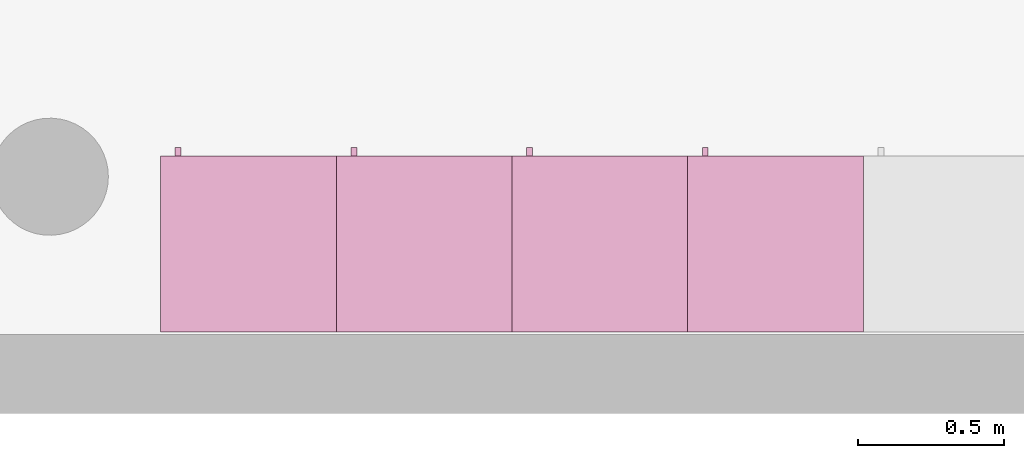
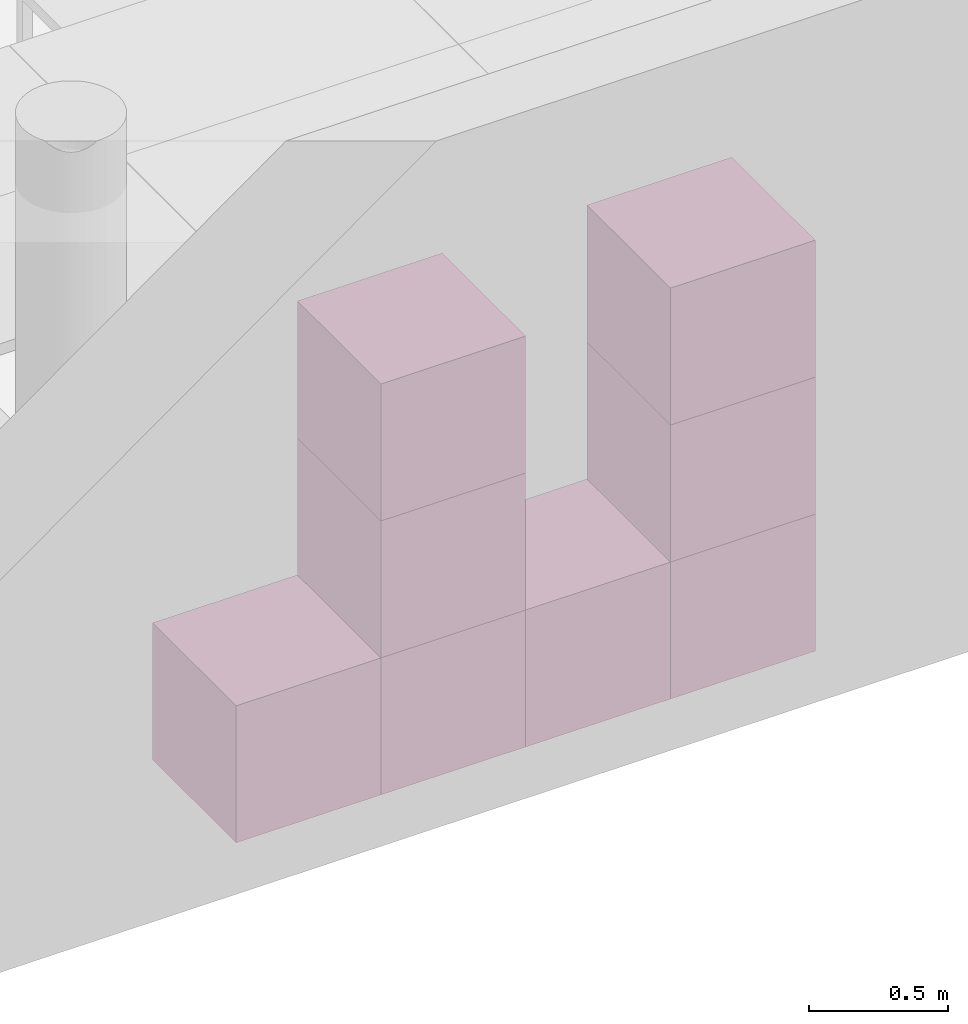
"""IFC4 building model written with IfcOpenShell, lengths in metres."""

from ifc_helpers import new_model, entity, si_unit, converted_unit, derived_unit, frame, origin, place, context, subcontext, project, spatial, faceted_brep, element, save


model = new_model("IFC4")

# Units and contexts
model_context = context("Model", 3, precision=1e-05, world=origin())
body_context = subcontext(model_context, "Body", "Model", "MODEL_VIEW")
ifc_project = project(units=[si_unit("LENGTHUNIT", "METRE"), si_unit("AREAUNIT", "SQUARE_METRE"), si_unit("VOLUMEUNIT", "CUBIC_METRE"), si_unit("MASSUNIT", "GRAM", prefix="KILO"), converted_unit("PLANEANGLEUNIT", "DEGREE", entity("IfcPlaneAngleMeasure", 0.0174532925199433), si_unit("PLANEANGLEUNIT", "RADIAN"), dimensions=[0, 0, 0, 0, 0, 0, 0]), derived_unit("THERMALTRANSMITTANCEUNIT", [(si_unit("POWERUNIT", "WATT"), 1), (si_unit("THERMODYNAMICTEMPERATUREUNIT", "KELVIN"), -1), (si_unit("LENGTHUNIT", "METRE"), -2)]), derived_unit("VOLUMETRICFLOWRATEUNIT", [(si_unit("LENGTHUNIT", "METRE"), 3), (converted_unit("TIMEUNIT", "hour", entity("IfcTimeMeasure", 3600.0), si_unit("TIMEUNIT", "SECOND"), dimensions=[0, 0, 1, 0, 0, 0, 0]), -1), (si_unit("LENGTHUNIT", "METRE"), -1)])], contexts=[model_context])

# Building, storeys
building_placement = place(None, origin())
building = spatial("IfcBuilding", under=ifc_project, at=building_placement, Name="HABITATGE PLURIFAMILIAR", CompositionType="ELEMENT")
storey_1_placement = place(building_placement, frame((0.0, 0.0, 15.28)))
storey_1 = spatial("IfcBuildingStorey", under=building, at=storey_1_placement, Name="PLANTA QUARTA", CompositionType="ELEMENT", Elevation=15.28)
storey_2_placement = place(storey_1_placement, frame((0.0, 0.0, 12.27)))
storey_2 = spatial("IfcBuildingStorey", under=storey_1, at=storey_2_placement, Name="NOU", CompositionType="PARTIAL")

# Furniture
furniture_1_placement = place(storey_2_placement, frame((418.31527037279, 13.1194598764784, -11.77)))
element("IfcFurniture", 1, at=furniture_1_placement, inside=storey_2, Name="Armai 60x60x60_P4", context=body_context, shape_type="Brep", body=[
    faceted_brep([(0.0, 0.6, 0.02), (0.0, 0.6, 0.0), (0.6, 0.6, 0.0), (0.6, 0.6, 0.02), (0.6, 0.0, 0.0), (0.6, 0.0, 0.02), (0.0, 0.0, 0.0), (0.0, 0.0, 0.02)], [[[0, 1, 2, 3]], [[3, 2, 4, 5]], [[5, 4, 6, 7]], [[7, 6, 1, 0]], [[0, 3, 5, 7]], [[1, 6, 4, 2]]], orient=[[False], [False], [False], [False], [False], [False]]),
    faceted_brep([(0.580000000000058, 0.0, 0.58), (0.580000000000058, 0.0200000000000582, 0.58), (0.580000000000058, 0.0200000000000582, 0.02), (0.580000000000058, 0.0, 0.02), (0.0200000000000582, 0.0200000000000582, 0.02), (0.0200000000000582, 0.0, 0.02), (0.0200000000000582, 0.0200000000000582, 0.58), (0.0200000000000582, 0.0, 0.58)], [[[0, 1, 2, 3]], [[3, 2, 4, 5]], [[5, 4, 6, 7]], [[7, 6, 1, 0]], [[0, 3, 5, 7]], [[1, 6, 4, 2]]], orient=[[False], [False], [False], [False], [False], [False]]),
    faceted_brep([(0.0200000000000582, 0.6, 0.58), (0.0, 0.6, 0.58), (0.0, 0.6, 0.02), (0.0200000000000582, 0.6, 0.02), (0.0, 0.0, 0.02), (0.0200000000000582, 0.0, 0.02), (0.0, 0.0, 0.58), (0.0200000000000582, 0.0, 0.58)], [[[0, 1, 2, 3]], [[3, 2, 4, 5]], [[5, 4, 6, 7]], [[7, 6, 1, 0]], [[0, 3, 5, 7]], [[1, 6, 4, 2]]], orient=[[False], [False], [False], [False], [False], [False]]),
    faceted_brep([(0.0, 0.58, 0.58), (0.0, 0.6, 0.58), (0.0, 0.6, 0.02), (0.0, 0.58, 0.02), (0.02, 0.6, 0.02), (0.02, 0.58, 0.02), (0.02, 0.6, 0.58), (0.02, 0.58, 0.58)], [[[0, 1, 2, 3]], [[3, 2, 4, 5]], [[5, 4, 6, 7]], [[7, 6, 1, 0]], [[0, 3, 5, 7]], [[1, 6, 4, 2]]], orient=[[False], [False], [False], [False], [False], [False]]),
    faceted_brep([(0.6, 0.6, 0.58), (0.58, 0.6, 0.58), (0.58, 0.6, 0.02), (0.6, 0.6, 0.02), (0.58, 0.0, 0.02), (0.6, 0.0, 0.02), (0.58, 0.0, 0.58), (0.6, 0.0, 0.58)], [[[0, 1, 2, 3]], [[3, 2, 4, 5]], [[5, 4, 6, 7]], [[7, 6, 1, 0]], [[0, 3, 5, 7]], [[1, 6, 4, 2]]], orient=[[False], [False], [False], [False], [False], [False]]),
    faceted_brep([(0.0, 0.600000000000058, 0.6), (0.0, 0.600000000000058, 0.58), (0.600000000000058, 0.600000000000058, 0.58), (0.600000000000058, 0.600000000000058, 0.6), (0.600000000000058, 0.0, 0.58), (0.600000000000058, 0.0, 0.6), (0.0, 0.0, 0.58), (0.0, 0.0, 0.6)], [[[0, 1, 2, 3]], [[3, 2, 4, 5]], [[5, 4, 6, 7]], [[7, 6, 1, 0]], [[0, 3, 5, 7]], [[1, 6, 4, 2]]], orient=[[False], [False], [False], [False], [False], [False]]),
    faceted_brep([(0.580000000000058, 0.580000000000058, 0.58), (0.580000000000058, 0.600000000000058, 0.58), (0.580000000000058, 0.600000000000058, 0.02), (0.580000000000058, 0.580000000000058, 0.02), (0.02, 0.600000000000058, 0.02), (0.02, 0.580000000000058, 0.02), (0.02, 0.600000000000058, 0.58), (0.02, 0.580000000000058, 0.58)], [[[0, 1, 2, 3]], [[3, 2, 4, 5]], [[5, 4, 6, 7]], [[7, 6, 1, 0]], [[0, 3, 5, 7]], [[1, 6, 4, 2]]], orient=[[False], [False], [False], [False], [False], [False]]),
    faceted_brep([(0.0700000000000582, 0.600000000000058, 0.358064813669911), (0.0700000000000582, 0.630000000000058, 0.358064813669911), (0.0700000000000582, 0.630000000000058, 0.258064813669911), (0.0700000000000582, 0.600000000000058, 0.258064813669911), (0.0500000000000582, 0.630000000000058, 0.258064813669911), (0.0500000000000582, 0.600000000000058, 0.258064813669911), (0.0500000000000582, 0.630000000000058, 0.358064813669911), (0.0500000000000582, 0.600000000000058, 0.358064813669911)], [[[0, 1, 2, 3]], [[3, 2, 4, 5]], [[5, 4, 6, 7]], [[7, 6, 1, 0]], [[0, 3, 5, 7]], [[1, 6, 4, 2]]], orient=[[False], [False], [False], [False], [False], [False]]),
])
furniture_2_placement = place(storey_2_placement, frame((418.31527037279, 13.1194598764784, -11.17)))
element("IfcFurniture", 2, at=furniture_2_placement, inside=storey_2, Name="Armai 60x60x60_P4", context=body_context, shape_type="Brep", body=[
    faceted_brep([(0.0, 0.6, 0.02), (0.0, 0.6, 0.0), (0.6, 0.6, 0.0), (0.6, 0.6, 0.02), (0.6, 0.0, 0.0), (0.6, 0.0, 0.02), (0.0, 0.0, 0.0), (0.0, 0.0, 0.02)], [[[0, 1, 2, 3]], [[3, 2, 4, 5]], [[5, 4, 6, 7]], [[7, 6, 1, 0]], [[0, 3, 5, 7]], [[1, 6, 4, 2]]], orient=[[False], [False], [False], [False], [False], [False]]),
    faceted_brep([(0.580000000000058, 0.0, 0.58), (0.580000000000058, 0.0200000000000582, 0.58), (0.580000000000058, 0.0200000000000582, 0.02), (0.580000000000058, 0.0, 0.02), (0.0200000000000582, 0.0200000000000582, 0.02), (0.0200000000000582, 0.0, 0.02), (0.0200000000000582, 0.0200000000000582, 0.58), (0.0200000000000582, 0.0, 0.58)], [[[0, 1, 2, 3]], [[3, 2, 4, 5]], [[5, 4, 6, 7]], [[7, 6, 1, 0]], [[0, 3, 5, 7]], [[1, 6, 4, 2]]], orient=[[False], [False], [False], [False], [False], [False]]),
    faceted_brep([(0.0200000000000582, 0.6, 0.58), (0.0, 0.6, 0.58), (0.0, 0.6, 0.02), (0.0200000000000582, 0.6, 0.02), (0.0, 0.0, 0.02), (0.0200000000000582, 0.0, 0.02), (0.0, 0.0, 0.58), (0.0200000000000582, 0.0, 0.58)], [[[0, 1, 2, 3]], [[3, 2, 4, 5]], [[5, 4, 6, 7]], [[7, 6, 1, 0]], [[0, 3, 5, 7]], [[1, 6, 4, 2]]], orient=[[False], [False], [False], [False], [False], [False]]),
    faceted_brep([(0.0, 0.58, 0.58), (0.0, 0.6, 0.58), (0.0, 0.6, 0.02), (0.0, 0.58, 0.02), (0.02, 0.6, 0.02), (0.02, 0.58, 0.02), (0.02, 0.6, 0.58), (0.02, 0.58, 0.58)], [[[0, 1, 2, 3]], [[3, 2, 4, 5]], [[5, 4, 6, 7]], [[7, 6, 1, 0]], [[0, 3, 5, 7]], [[1, 6, 4, 2]]], orient=[[False], [False], [False], [False], [False], [False]]),
    faceted_brep([(0.6, 0.6, 0.58), (0.58, 0.6, 0.58), (0.58, 0.6, 0.02), (0.6, 0.6, 0.02), (0.58, 0.0, 0.02), (0.6, 0.0, 0.02), (0.58, 0.0, 0.58), (0.6, 0.0, 0.58)], [[[0, 1, 2, 3]], [[3, 2, 4, 5]], [[5, 4, 6, 7]], [[7, 6, 1, 0]], [[0, 3, 5, 7]], [[1, 6, 4, 2]]], orient=[[False], [False], [False], [False], [False], [False]]),
    faceted_brep([(0.0, 0.600000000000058, 0.6), (0.0, 0.600000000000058, 0.58), (0.600000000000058, 0.600000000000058, 0.58), (0.600000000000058, 0.600000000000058, 0.6), (0.600000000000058, 0.0, 0.58), (0.600000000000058, 0.0, 0.6), (0.0, 0.0, 0.58), (0.0, 0.0, 0.6)], [[[0, 1, 2, 3]], [[3, 2, 4, 5]], [[5, 4, 6, 7]], [[7, 6, 1, 0]], [[0, 3, 5, 7]], [[1, 6, 4, 2]]], orient=[[False], [False], [False], [False], [False], [False]]),
    faceted_brep([(0.580000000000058, 0.580000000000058, 0.58), (0.580000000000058, 0.600000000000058, 0.58), (0.580000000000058, 0.600000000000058, 0.02), (0.580000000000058, 0.580000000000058, 0.02), (0.02, 0.600000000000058, 0.02), (0.02, 0.580000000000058, 0.02), (0.02, 0.600000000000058, 0.58), (0.02, 0.580000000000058, 0.58)], [[[0, 1, 2, 3]], [[3, 2, 4, 5]], [[5, 4, 6, 7]], [[7, 6, 1, 0]], [[0, 3, 5, 7]], [[1, 6, 4, 2]]], orient=[[False], [False], [False], [False], [False], [False]]),
    faceted_brep([(0.0700000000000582, 0.600000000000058, 0.358064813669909), (0.0700000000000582, 0.630000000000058, 0.358064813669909), (0.0700000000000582, 0.630000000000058, 0.258064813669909), (0.0700000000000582, 0.600000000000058, 0.258064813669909), (0.0500000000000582, 0.630000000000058, 0.258064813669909), (0.0500000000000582, 0.600000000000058, 0.258064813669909), (0.0500000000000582, 0.630000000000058, 0.358064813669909), (0.0500000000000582, 0.600000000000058, 0.358064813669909)], [[[0, 1, 2, 3]], [[3, 2, 4, 5]], [[5, 4, 6, 7]], [[7, 6, 1, 0]], [[0, 3, 5, 7]], [[1, 6, 4, 2]]], orient=[[False], [False], [False], [False], [False], [False]]),
])
furniture_3_placement = place(storey_2_placement, frame((418.31527037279, 13.1194598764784, -12.37)))
element("IfcFurniture", 3, at=furniture_3_placement, inside=storey_2, Name="Armai 60x60x60_P4", context=body_context, shape_type="Brep", body=[
    faceted_brep([(0.0, 0.6, 0.02), (0.0, 0.6, 0.0), (0.6, 0.6, 0.0), (0.6, 0.6, 0.02), (0.6, 0.0, 0.0), (0.6, 0.0, 0.02), (0.0, 0.0, 0.0), (0.0, 0.0, 0.02)], [[[0, 1, 2, 3]], [[3, 2, 4, 5]], [[5, 4, 6, 7]], [[7, 6, 1, 0]], [[0, 3, 5, 7]], [[1, 6, 4, 2]]], orient=[[False], [False], [False], [False], [False], [False]]),
    faceted_brep([(0.580000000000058, 0.0, 0.58), (0.580000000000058, 0.0200000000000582, 0.58), (0.580000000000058, 0.0200000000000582, 0.02), (0.580000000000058, 0.0, 0.02), (0.0200000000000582, 0.0200000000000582, 0.02), (0.0200000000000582, 0.0, 0.02), (0.0200000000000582, 0.0200000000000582, 0.58), (0.0200000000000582, 0.0, 0.58)], [[[0, 1, 2, 3]], [[3, 2, 4, 5]], [[5, 4, 6, 7]], [[7, 6, 1, 0]], [[0, 3, 5, 7]], [[1, 6, 4, 2]]], orient=[[False], [False], [False], [False], [False], [False]]),
    faceted_brep([(0.0200000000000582, 0.6, 0.58), (0.0, 0.6, 0.58), (0.0, 0.6, 0.02), (0.0200000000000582, 0.6, 0.02), (0.0, 0.0, 0.02), (0.0200000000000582, 0.0, 0.02), (0.0, 0.0, 0.58), (0.0200000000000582, 0.0, 0.58)], [[[0, 1, 2, 3]], [[3, 2, 4, 5]], [[5, 4, 6, 7]], [[7, 6, 1, 0]], [[0, 3, 5, 7]], [[1, 6, 4, 2]]], orient=[[False], [False], [False], [False], [False], [False]]),
    faceted_brep([(0.0, 0.58, 0.58), (0.0, 0.6, 0.58), (0.0, 0.6, 0.02), (0.0, 0.58, 0.02), (0.02, 0.6, 0.02), (0.02, 0.58, 0.02), (0.02, 0.6, 0.58), (0.02, 0.58, 0.58)], [[[0, 1, 2, 3]], [[3, 2, 4, 5]], [[5, 4, 6, 7]], [[7, 6, 1, 0]], [[0, 3, 5, 7]], [[1, 6, 4, 2]]], orient=[[False], [False], [False], [False], [False], [False]]),
    faceted_brep([(0.6, 0.6, 0.58), (0.58, 0.6, 0.58), (0.58, 0.6, 0.02), (0.6, 0.6, 0.02), (0.58, 0.0, 0.02), (0.6, 0.0, 0.02), (0.58, 0.0, 0.58), (0.6, 0.0, 0.58)], [[[0, 1, 2, 3]], [[3, 2, 4, 5]], [[5, 4, 6, 7]], [[7, 6, 1, 0]], [[0, 3, 5, 7]], [[1, 6, 4, 2]]], orient=[[False], [False], [False], [False], [False], [False]]),
    faceted_brep([(0.0, 0.600000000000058, 0.6), (0.0, 0.600000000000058, 0.58), (0.600000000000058, 0.600000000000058, 0.58), (0.600000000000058, 0.600000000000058, 0.6), (0.600000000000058, 0.0, 0.58), (0.600000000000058, 0.0, 0.6), (0.0, 0.0, 0.58), (0.0, 0.0, 0.6)], [[[0, 1, 2, 3]], [[3, 2, 4, 5]], [[5, 4, 6, 7]], [[7, 6, 1, 0]], [[0, 3, 5, 7]], [[1, 6, 4, 2]]], orient=[[False], [False], [False], [False], [False], [False]]),
    faceted_brep([(0.580000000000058, 0.580000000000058, 0.58), (0.580000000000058, 0.600000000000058, 0.58), (0.580000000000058, 0.600000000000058, 0.02), (0.580000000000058, 0.580000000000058, 0.02), (0.02, 0.600000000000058, 0.02), (0.02, 0.580000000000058, 0.02), (0.02, 0.600000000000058, 0.58), (0.02, 0.580000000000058, 0.58)], [[[0, 1, 2, 3]], [[3, 2, 4, 5]], [[5, 4, 6, 7]], [[7, 6, 1, 0]], [[0, 3, 5, 7]], [[1, 6, 4, 2]]], orient=[[False], [False], [False], [False], [False], [False]]),
    faceted_brep([(0.0700000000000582, 0.600000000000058, 0.358064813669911), (0.0700000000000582, 0.630000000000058, 0.358064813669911), (0.0700000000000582, 0.630000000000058, 0.258064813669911), (0.0700000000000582, 0.600000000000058, 0.258064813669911), (0.0500000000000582, 0.630000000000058, 0.258064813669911), (0.0500000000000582, 0.600000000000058, 0.258064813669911), (0.0500000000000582, 0.630000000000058, 0.358064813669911), (0.0500000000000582, 0.600000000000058, 0.358064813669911)], [[[0, 1, 2, 3]], [[3, 2, 4, 5]], [[5, 4, 6, 7]], [[7, 6, 1, 0]], [[0, 3, 5, 7]], [[1, 6, 4, 2]]], orient=[[False], [False], [False], [False], [False], [False]]),
])
furniture_4_placement = place(storey_2_placement, frame((417.11527037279, 13.1194598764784, -12.37)))
element("IfcFurniture", 4, at=furniture_4_placement, inside=storey_2, Name="Armai 60x60x60_P4", context=body_context, shape_type="Brep", body=[
    faceted_brep([(0.0, 0.6, 0.02), (0.0, 0.6, 0.0), (0.6, 0.6, 0.0), (0.6, 0.6, 0.02), (0.6, 0.0, 0.0), (0.6, 0.0, 0.02), (0.0, 0.0, 0.0), (0.0, 0.0, 0.02)], [[[0, 1, 2, 3]], [[3, 2, 4, 5]], [[5, 4, 6, 7]], [[7, 6, 1, 0]], [[0, 3, 5, 7]], [[1, 6, 4, 2]]], orient=[[False], [False], [False], [False], [False], [False]]),
    faceted_brep([(0.580000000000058, 0.0, 0.58), (0.580000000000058, 0.0200000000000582, 0.58), (0.580000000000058, 0.0200000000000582, 0.02), (0.580000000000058, 0.0, 0.02), (0.0200000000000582, 0.0200000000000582, 0.02), (0.0200000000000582, 0.0, 0.02), (0.0200000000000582, 0.0200000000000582, 0.58), (0.0200000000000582, 0.0, 0.58)], [[[0, 1, 2, 3]], [[3, 2, 4, 5]], [[5, 4, 6, 7]], [[7, 6, 1, 0]], [[0, 3, 5, 7]], [[1, 6, 4, 2]]], orient=[[False], [False], [False], [False], [False], [False]]),
    faceted_brep([(0.0200000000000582, 0.6, 0.58), (0.0, 0.6, 0.58), (0.0, 0.6, 0.02), (0.0200000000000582, 0.6, 0.02), (0.0, 0.0, 0.02), (0.0200000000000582, 0.0, 0.02), (0.0, 0.0, 0.58), (0.0200000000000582, 0.0, 0.58)], [[[0, 1, 2, 3]], [[3, 2, 4, 5]], [[5, 4, 6, 7]], [[7, 6, 1, 0]], [[0, 3, 5, 7]], [[1, 6, 4, 2]]], orient=[[False], [False], [False], [False], [False], [False]]),
    faceted_brep([(0.0, 0.58, 0.58), (0.0, 0.6, 0.58), (0.0, 0.6, 0.02), (0.0, 0.58, 0.02), (0.02, 0.6, 0.02), (0.02, 0.58, 0.02), (0.02, 0.6, 0.58), (0.02, 0.58, 0.58)], [[[0, 1, 2, 3]], [[3, 2, 4, 5]], [[5, 4, 6, 7]], [[7, 6, 1, 0]], [[0, 3, 5, 7]], [[1, 6, 4, 2]]], orient=[[False], [False], [False], [False], [False], [False]]),
    faceted_brep([(0.6, 0.6, 0.58), (0.58, 0.6, 0.58), (0.58, 0.6, 0.02), (0.6, 0.6, 0.02), (0.58, 0.0, 0.02), (0.6, 0.0, 0.02), (0.58, 0.0, 0.58), (0.6, 0.0, 0.58)], [[[0, 1, 2, 3]], [[3, 2, 4, 5]], [[5, 4, 6, 7]], [[7, 6, 1, 0]], [[0, 3, 5, 7]], [[1, 6, 4, 2]]], orient=[[False], [False], [False], [False], [False], [False]]),
    faceted_brep([(0.0, 0.600000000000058, 0.6), (0.0, 0.600000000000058, 0.58), (0.600000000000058, 0.600000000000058, 0.58), (0.600000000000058, 0.600000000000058, 0.6), (0.600000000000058, 0.0, 0.58), (0.600000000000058, 0.0, 0.6), (0.0, 0.0, 0.58), (0.0, 0.0, 0.6)], [[[0, 1, 2, 3]], [[3, 2, 4, 5]], [[5, 4, 6, 7]], [[7, 6, 1, 0]], [[0, 3, 5, 7]], [[1, 6, 4, 2]]], orient=[[False], [False], [False], [False], [False], [False]]),
    faceted_brep([(0.580000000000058, 0.580000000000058, 0.58), (0.580000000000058, 0.600000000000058, 0.58), (0.580000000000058, 0.600000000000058, 0.02), (0.580000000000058, 0.580000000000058, 0.02), (0.02, 0.600000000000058, 0.02), (0.02, 0.580000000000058, 0.02), (0.02, 0.600000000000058, 0.58), (0.02, 0.580000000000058, 0.58)], [[[0, 1, 2, 3]], [[3, 2, 4, 5]], [[5, 4, 6, 7]], [[7, 6, 1, 0]], [[0, 3, 5, 7]], [[1, 6, 4, 2]]], orient=[[False], [False], [False], [False], [False], [False]]),
    faceted_brep([(0.0700000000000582, 0.600000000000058, 0.358064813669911), (0.0700000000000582, 0.630000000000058, 0.358064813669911), (0.0700000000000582, 0.630000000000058, 0.258064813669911), (0.0700000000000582, 0.600000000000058, 0.258064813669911), (0.0500000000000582, 0.630000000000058, 0.258064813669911), (0.0500000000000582, 0.600000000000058, 0.258064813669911), (0.0500000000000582, 0.630000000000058, 0.358064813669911), (0.0500000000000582, 0.600000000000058, 0.358064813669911)], [[[0, 1, 2, 3]], [[3, 2, 4, 5]], [[5, 4, 6, 7]], [[7, 6, 1, 0]], [[0, 3, 5, 7]], [[1, 6, 4, 2]]], orient=[[False], [False], [False], [False], [False], [False]]),
])
furniture_5_placement = place(storey_2_placement, frame((417.71527037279, 13.1194598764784, -12.37)))
element("IfcFurniture", 5, at=furniture_5_placement, inside=storey_2, Name="Armai 60x60x60_P4", context=body_context, shape_type="Brep", body=[
    faceted_brep([(0.0, 0.6, 0.02), (0.0, 0.6, 0.0), (0.6, 0.6, 0.0), (0.6, 0.6, 0.02), (0.6, 0.0, 0.0), (0.6, 0.0, 0.02), (0.0, 0.0, 0.0), (0.0, 0.0, 0.02)], [[[0, 1, 2, 3]], [[3, 2, 4, 5]], [[5, 4, 6, 7]], [[7, 6, 1, 0]], [[0, 3, 5, 7]], [[1, 6, 4, 2]]], orient=[[False], [False], [False], [False], [False], [False]]),
    faceted_brep([(0.580000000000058, 0.0, 0.58), (0.580000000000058, 0.0200000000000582, 0.58), (0.580000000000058, 0.0200000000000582, 0.02), (0.580000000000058, 0.0, 0.02), (0.0200000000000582, 0.0200000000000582, 0.02), (0.0200000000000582, 0.0, 0.02), (0.0200000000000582, 0.0200000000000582, 0.58), (0.0200000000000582, 0.0, 0.58)], [[[0, 1, 2, 3]], [[3, 2, 4, 5]], [[5, 4, 6, 7]], [[7, 6, 1, 0]], [[0, 3, 5, 7]], [[1, 6, 4, 2]]], orient=[[False], [False], [False], [False], [False], [False]]),
    faceted_brep([(0.0200000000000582, 0.6, 0.58), (0.0, 0.6, 0.58), (0.0, 0.6, 0.02), (0.0200000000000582, 0.6, 0.02), (0.0, 0.0, 0.02), (0.0200000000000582, 0.0, 0.02), (0.0, 0.0, 0.58), (0.0200000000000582, 0.0, 0.58)], [[[0, 1, 2, 3]], [[3, 2, 4, 5]], [[5, 4, 6, 7]], [[7, 6, 1, 0]], [[0, 3, 5, 7]], [[1, 6, 4, 2]]], orient=[[False], [False], [False], [False], [False], [False]]),
    faceted_brep([(0.0, 0.58, 0.58), (0.0, 0.6, 0.58), (0.0, 0.6, 0.02), (0.0, 0.58, 0.02), (0.02, 0.6, 0.02), (0.02, 0.58, 0.02), (0.02, 0.6, 0.58), (0.02, 0.58, 0.58)], [[[0, 1, 2, 3]], [[3, 2, 4, 5]], [[5, 4, 6, 7]], [[7, 6, 1, 0]], [[0, 3, 5, 7]], [[1, 6, 4, 2]]], orient=[[False], [False], [False], [False], [False], [False]]),
    faceted_brep([(0.6, 0.6, 0.58), (0.58, 0.6, 0.58), (0.58, 0.6, 0.02), (0.6, 0.6, 0.02), (0.58, 0.0, 0.02), (0.6, 0.0, 0.02), (0.58, 0.0, 0.58), (0.6, 0.0, 0.58)], [[[0, 1, 2, 3]], [[3, 2, 4, 5]], [[5, 4, 6, 7]], [[7, 6, 1, 0]], [[0, 3, 5, 7]], [[1, 6, 4, 2]]], orient=[[False], [False], [False], [False], [False], [False]]),
    faceted_brep([(0.0, 0.600000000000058, 0.6), (0.0, 0.600000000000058, 0.58), (0.600000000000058, 0.600000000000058, 0.58), (0.600000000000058, 0.600000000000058, 0.6), (0.600000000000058, 0.0, 0.58), (0.600000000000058, 0.0, 0.6), (0.0, 0.0, 0.58), (0.0, 0.0, 0.6)], [[[0, 1, 2, 3]], [[3, 2, 4, 5]], [[5, 4, 6, 7]], [[7, 6, 1, 0]], [[0, 3, 5, 7]], [[1, 6, 4, 2]]], orient=[[False], [False], [False], [False], [False], [False]]),
    faceted_brep([(0.580000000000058, 0.580000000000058, 0.58), (0.580000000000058, 0.600000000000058, 0.58), (0.580000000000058, 0.600000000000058, 0.02), (0.580000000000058, 0.580000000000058, 0.02), (0.02, 0.600000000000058, 0.02), (0.02, 0.580000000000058, 0.02), (0.02, 0.600000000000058, 0.58), (0.02, 0.580000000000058, 0.58)], [[[0, 1, 2, 3]], [[3, 2, 4, 5]], [[5, 4, 6, 7]], [[7, 6, 1, 0]], [[0, 3, 5, 7]], [[1, 6, 4, 2]]], orient=[[False], [False], [False], [False], [False], [False]]),
    faceted_brep([(0.0700000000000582, 0.600000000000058, 0.358064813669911), (0.0700000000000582, 0.630000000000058, 0.358064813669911), (0.0700000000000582, 0.630000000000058, 0.258064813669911), (0.0700000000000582, 0.600000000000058, 0.258064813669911), (0.0500000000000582, 0.630000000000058, 0.258064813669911), (0.0500000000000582, 0.600000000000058, 0.258064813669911), (0.0500000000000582, 0.630000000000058, 0.358064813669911), (0.0500000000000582, 0.600000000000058, 0.358064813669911)], [[[0, 1, 2, 3]], [[3, 2, 4, 5]], [[5, 4, 6, 7]], [[7, 6, 1, 0]], [[0, 3, 5, 7]], [[1, 6, 4, 2]]], orient=[[False], [False], [False], [False], [False], [False]]),
])
furniture_6_placement = place(storey_2_placement, frame((417.11527037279, 13.1194598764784, -11.77)))
element("IfcFurniture", 6, at=furniture_6_placement, inside=storey_2, Name="Armai 60x60x60_P4", context=body_context, shape_type="Brep", body=[
    faceted_brep([(0.0, 0.6, 0.02), (0.0, 0.6, 0.0), (0.6, 0.6, 0.0), (0.6, 0.6, 0.02), (0.6, 0.0, 0.0), (0.6, 0.0, 0.02), (0.0, 0.0, 0.0), (0.0, 0.0, 0.02)], [[[0, 1, 2, 3]], [[3, 2, 4, 5]], [[5, 4, 6, 7]], [[7, 6, 1, 0]], [[0, 3, 5, 7]], [[1, 6, 4, 2]]], orient=[[False], [False], [False], [False], [False], [False]]),
    faceted_brep([(0.580000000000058, 0.0, 0.58), (0.580000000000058, 0.0200000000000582, 0.58), (0.580000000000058, 0.0200000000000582, 0.02), (0.580000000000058, 0.0, 0.02), (0.0200000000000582, 0.0200000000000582, 0.02), (0.0200000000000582, 0.0, 0.02), (0.0200000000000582, 0.0200000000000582, 0.58), (0.0200000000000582, 0.0, 0.58)], [[[0, 1, 2, 3]], [[3, 2, 4, 5]], [[5, 4, 6, 7]], [[7, 6, 1, 0]], [[0, 3, 5, 7]], [[1, 6, 4, 2]]], orient=[[False], [False], [False], [False], [False], [False]]),
    faceted_brep([(0.0200000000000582, 0.6, 0.58), (0.0, 0.6, 0.58), (0.0, 0.6, 0.02), (0.0200000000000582, 0.6, 0.02), (0.0, 0.0, 0.02), (0.0200000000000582, 0.0, 0.02), (0.0, 0.0, 0.58), (0.0200000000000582, 0.0, 0.58)], [[[0, 1, 2, 3]], [[3, 2, 4, 5]], [[5, 4, 6, 7]], [[7, 6, 1, 0]], [[0, 3, 5, 7]], [[1, 6, 4, 2]]], orient=[[False], [False], [False], [False], [False], [False]]),
    faceted_brep([(0.0, 0.58, 0.58), (0.0, 0.6, 0.58), (0.0, 0.6, 0.02), (0.0, 0.58, 0.02), (0.02, 0.6, 0.02), (0.02, 0.58, 0.02), (0.02, 0.6, 0.58), (0.02, 0.58, 0.58)], [[[0, 1, 2, 3]], [[3, 2, 4, 5]], [[5, 4, 6, 7]], [[7, 6, 1, 0]], [[0, 3, 5, 7]], [[1, 6, 4, 2]]], orient=[[False], [False], [False], [False], [False], [False]]),
    faceted_brep([(0.6, 0.6, 0.58), (0.58, 0.6, 0.58), (0.58, 0.6, 0.02), (0.6, 0.6, 0.02), (0.58, 0.0, 0.02), (0.6, 0.0, 0.02), (0.58, 0.0, 0.58), (0.6, 0.0, 0.58)], [[[0, 1, 2, 3]], [[3, 2, 4, 5]], [[5, 4, 6, 7]], [[7, 6, 1, 0]], [[0, 3, 5, 7]], [[1, 6, 4, 2]]], orient=[[False], [False], [False], [False], [False], [False]]),
    faceted_brep([(0.0, 0.600000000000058, 0.6), (0.0, 0.600000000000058, 0.58), (0.600000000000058, 0.600000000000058, 0.58), (0.600000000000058, 0.600000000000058, 0.6), (0.600000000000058, 0.0, 0.58), (0.600000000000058, 0.0, 0.6), (0.0, 0.0, 0.58), (0.0, 0.0, 0.6)], [[[0, 1, 2, 3]], [[3, 2, 4, 5]], [[5, 4, 6, 7]], [[7, 6, 1, 0]], [[0, 3, 5, 7]], [[1, 6, 4, 2]]], orient=[[False], [False], [False], [False], [False], [False]]),
    faceted_brep([(0.580000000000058, 0.580000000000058, 0.58), (0.580000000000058, 0.600000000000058, 0.58), (0.580000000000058, 0.600000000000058, 0.02), (0.580000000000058, 0.580000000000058, 0.02), (0.02, 0.600000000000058, 0.02), (0.02, 0.580000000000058, 0.02), (0.02, 0.600000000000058, 0.58), (0.02, 0.580000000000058, 0.58)], [[[0, 1, 2, 3]], [[3, 2, 4, 5]], [[5, 4, 6, 7]], [[7, 6, 1, 0]], [[0, 3, 5, 7]], [[1, 6, 4, 2]]], orient=[[False], [False], [False], [False], [False], [False]]),
    faceted_brep([(0.0700000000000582, 0.600000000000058, 0.358064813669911), (0.0700000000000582, 0.630000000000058, 0.358064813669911), (0.0700000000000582, 0.630000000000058, 0.258064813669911), (0.0700000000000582, 0.600000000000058, 0.258064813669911), (0.0500000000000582, 0.630000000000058, 0.258064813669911), (0.0500000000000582, 0.600000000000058, 0.258064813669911), (0.0500000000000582, 0.630000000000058, 0.358064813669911), (0.0500000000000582, 0.600000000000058, 0.358064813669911)], [[[0, 1, 2, 3]], [[3, 2, 4, 5]], [[5, 4, 6, 7]], [[7, 6, 1, 0]], [[0, 3, 5, 7]], [[1, 6, 4, 2]]], orient=[[False], [False], [False], [False], [False], [False]]),
])
furniture_7_placement = place(storey_2_placement, frame((417.11527037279, 13.1194598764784, -11.17)))
element("IfcFurniture", 7, at=furniture_7_placement, inside=storey_2, Name="Armai 60x60x60_P4", context=body_context, shape_type="Brep", body=[
    faceted_brep([(0.0, 0.6, 0.02), (0.0, 0.6, 0.0), (0.6, 0.6, 0.0), (0.6, 0.6, 0.02), (0.6, 0.0, 0.0), (0.6, 0.0, 0.02), (0.0, 0.0, 0.0), (0.0, 0.0, 0.02)], [[[0, 1, 2, 3]], [[3, 2, 4, 5]], [[5, 4, 6, 7]], [[7, 6, 1, 0]], [[0, 3, 5, 7]], [[1, 6, 4, 2]]], orient=[[False], [False], [False], [False], [False], [False]]),
    faceted_brep([(0.580000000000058, 0.0, 0.58), (0.580000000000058, 0.0200000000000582, 0.58), (0.580000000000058, 0.0200000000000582, 0.02), (0.580000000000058, 0.0, 0.02), (0.0200000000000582, 0.0200000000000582, 0.02), (0.0200000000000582, 0.0, 0.02), (0.0200000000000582, 0.0200000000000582, 0.58), (0.0200000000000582, 0.0, 0.58)], [[[0, 1, 2, 3]], [[3, 2, 4, 5]], [[5, 4, 6, 7]], [[7, 6, 1, 0]], [[0, 3, 5, 7]], [[1, 6, 4, 2]]], orient=[[False], [False], [False], [False], [False], [False]]),
    faceted_brep([(0.0200000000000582, 0.6, 0.58), (0.0, 0.6, 0.58), (0.0, 0.6, 0.02), (0.0200000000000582, 0.6, 0.02), (0.0, 0.0, 0.02), (0.0200000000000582, 0.0, 0.02), (0.0, 0.0, 0.58), (0.0200000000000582, 0.0, 0.58)], [[[0, 1, 2, 3]], [[3, 2, 4, 5]], [[5, 4, 6, 7]], [[7, 6, 1, 0]], [[0, 3, 5, 7]], [[1, 6, 4, 2]]], orient=[[False], [False], [False], [False], [False], [False]]),
    faceted_brep([(0.0, 0.58, 0.58), (0.0, 0.6, 0.58), (0.0, 0.6, 0.02), (0.0, 0.58, 0.02), (0.02, 0.6, 0.02), (0.02, 0.58, 0.02), (0.02, 0.6, 0.58), (0.02, 0.58, 0.58)], [[[0, 1, 2, 3]], [[3, 2, 4, 5]], [[5, 4, 6, 7]], [[7, 6, 1, 0]], [[0, 3, 5, 7]], [[1, 6, 4, 2]]], orient=[[False], [False], [False], [False], [False], [False]]),
    faceted_brep([(0.6, 0.6, 0.58), (0.58, 0.6, 0.58), (0.58, 0.6, 0.02), (0.6, 0.6, 0.02), (0.58, 0.0, 0.02), (0.6, 0.0, 0.02), (0.58, 0.0, 0.58), (0.6, 0.0, 0.58)], [[[0, 1, 2, 3]], [[3, 2, 4, 5]], [[5, 4, 6, 7]], [[7, 6, 1, 0]], [[0, 3, 5, 7]], [[1, 6, 4, 2]]], orient=[[False], [False], [False], [False], [False], [False]]),
    faceted_brep([(0.0, 0.600000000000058, 0.6), (0.0, 0.600000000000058, 0.58), (0.600000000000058, 0.600000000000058, 0.58), (0.600000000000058, 0.600000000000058, 0.6), (0.600000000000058, 0.0, 0.58), (0.600000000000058, 0.0, 0.6), (0.0, 0.0, 0.58), (0.0, 0.0, 0.6)], [[[0, 1, 2, 3]], [[3, 2, 4, 5]], [[5, 4, 6, 7]], [[7, 6, 1, 0]], [[0, 3, 5, 7]], [[1, 6, 4, 2]]], orient=[[False], [False], [False], [False], [False], [False]]),
    faceted_brep([(0.580000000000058, 0.580000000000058, 0.58), (0.580000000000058, 0.600000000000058, 0.58), (0.580000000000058, 0.600000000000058, 0.02), (0.580000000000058, 0.580000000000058, 0.02), (0.02, 0.600000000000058, 0.02), (0.02, 0.580000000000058, 0.02), (0.02, 0.600000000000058, 0.58), (0.02, 0.580000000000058, 0.58)], [[[0, 1, 2, 3]], [[3, 2, 4, 5]], [[5, 4, 6, 7]], [[7, 6, 1, 0]], [[0, 3, 5, 7]], [[1, 6, 4, 2]]], orient=[[False], [False], [False], [False], [False], [False]]),
    faceted_brep([(0.0700000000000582, 0.600000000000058, 0.358064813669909), (0.0700000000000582, 0.630000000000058, 0.358064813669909), (0.0700000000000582, 0.630000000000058, 0.258064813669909), (0.0700000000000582, 0.600000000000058, 0.258064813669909), (0.0500000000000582, 0.630000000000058, 0.258064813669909), (0.0500000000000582, 0.600000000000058, 0.258064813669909), (0.0500000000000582, 0.630000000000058, 0.358064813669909), (0.0500000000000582, 0.600000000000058, 0.358064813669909)], [[[0, 1, 2, 3]], [[3, 2, 4, 5]], [[5, 4, 6, 7]], [[7, 6, 1, 0]], [[0, 3, 5, 7]], [[1, 6, 4, 2]]], orient=[[False], [False], [False], [False], [False], [False]]),
])
furniture_8_placement = place(storey_2_placement, frame((416.51527037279, 13.1194598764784, -12.37)))
element("IfcFurniture", 8, at=furniture_8_placement, inside=storey_2, Name="Armai 60x60x60_P4", context=body_context, shape_type="Brep", body=[
    faceted_brep([(0.0, 0.6, 0.02), (0.0, 0.6, 0.0), (0.6, 0.6, 0.0), (0.6, 0.6, 0.02), (0.6, 0.0, 0.0), (0.6, 0.0, 0.02), (0.0, 0.0, 0.0), (0.0, 0.0, 0.02)], [[[0, 1, 2, 3]], [[3, 2, 4, 5]], [[5, 4, 6, 7]], [[7, 6, 1, 0]], [[0, 3, 5, 7]], [[1, 6, 4, 2]]], orient=[[False], [False], [False], [False], [False], [False]]),
    faceted_brep([(0.580000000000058, 0.0, 0.58), (0.580000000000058, 0.0200000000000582, 0.58), (0.580000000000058, 0.0200000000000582, 0.02), (0.580000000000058, 0.0, 0.02), (0.0200000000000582, 0.0200000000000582, 0.02), (0.0200000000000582, 0.0, 0.02), (0.0200000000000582, 0.0200000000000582, 0.58), (0.0200000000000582, 0.0, 0.58)], [[[0, 1, 2, 3]], [[3, 2, 4, 5]], [[5, 4, 6, 7]], [[7, 6, 1, 0]], [[0, 3, 5, 7]], [[1, 6, 4, 2]]], orient=[[False], [False], [False], [False], [False], [False]]),
    faceted_brep([(0.0200000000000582, 0.6, 0.58), (0.0, 0.6, 0.58), (0.0, 0.6, 0.02), (0.0200000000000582, 0.6, 0.02), (0.0, 0.0, 0.02), (0.0200000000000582, 0.0, 0.02), (0.0, 0.0, 0.58), (0.0200000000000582, 0.0, 0.58)], [[[0, 1, 2, 3]], [[3, 2, 4, 5]], [[5, 4, 6, 7]], [[7, 6, 1, 0]], [[0, 3, 5, 7]], [[1, 6, 4, 2]]], orient=[[False], [False], [False], [False], [False], [False]]),
    faceted_brep([(0.0, 0.58, 0.58), (0.0, 0.6, 0.58), (0.0, 0.6, 0.02), (0.0, 0.58, 0.02), (0.02, 0.6, 0.02), (0.02, 0.58, 0.02), (0.02, 0.6, 0.58), (0.02, 0.58, 0.58)], [[[0, 1, 2, 3]], [[3, 2, 4, 5]], [[5, 4, 6, 7]], [[7, 6, 1, 0]], [[0, 3, 5, 7]], [[1, 6, 4, 2]]], orient=[[False], [False], [False], [False], [False], [False]]),
    faceted_brep([(0.6, 0.6, 0.58), (0.58, 0.6, 0.58), (0.58, 0.6, 0.02), (0.6, 0.6, 0.02), (0.58, 0.0, 0.02), (0.6, 0.0, 0.02), (0.58, 0.0, 0.58), (0.6, 0.0, 0.58)], [[[0, 1, 2, 3]], [[3, 2, 4, 5]], [[5, 4, 6, 7]], [[7, 6, 1, 0]], [[0, 3, 5, 7]], [[1, 6, 4, 2]]], orient=[[False], [False], [False], [False], [False], [False]]),
    faceted_brep([(0.0, 0.600000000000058, 0.6), (0.0, 0.600000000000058, 0.58), (0.600000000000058, 0.600000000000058, 0.58), (0.600000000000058, 0.600000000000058, 0.6), (0.600000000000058, 0.0, 0.58), (0.600000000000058, 0.0, 0.6), (0.0, 0.0, 0.58), (0.0, 0.0, 0.6)], [[[0, 1, 2, 3]], [[3, 2, 4, 5]], [[5, 4, 6, 7]], [[7, 6, 1, 0]], [[0, 3, 5, 7]], [[1, 6, 4, 2]]], orient=[[False], [False], [False], [False], [False], [False]]),
    faceted_brep([(0.580000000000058, 0.580000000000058, 0.58), (0.580000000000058, 0.600000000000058, 0.58), (0.580000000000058, 0.600000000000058, 0.02), (0.580000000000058, 0.580000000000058, 0.02), (0.02, 0.600000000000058, 0.02), (0.02, 0.580000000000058, 0.02), (0.02, 0.600000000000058, 0.58), (0.02, 0.580000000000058, 0.58)], [[[0, 1, 2, 3]], [[3, 2, 4, 5]], [[5, 4, 6, 7]], [[7, 6, 1, 0]], [[0, 3, 5, 7]], [[1, 6, 4, 2]]], orient=[[False], [False], [False], [False], [False], [False]]),
    faceted_brep([(0.0700000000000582, 0.600000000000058, 0.358064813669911), (0.0700000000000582, 0.630000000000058, 0.358064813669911), (0.0700000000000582, 0.630000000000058, 0.258064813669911), (0.0700000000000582, 0.600000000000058, 0.258064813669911), (0.0500000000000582, 0.630000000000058, 0.258064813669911), (0.0500000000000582, 0.600000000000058, 0.258064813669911), (0.0500000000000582, 0.630000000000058, 0.358064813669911), (0.0500000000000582, 0.600000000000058, 0.358064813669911)], [[[0, 1, 2, 3]], [[3, 2, 4, 5]], [[5, 4, 6, 7]], [[7, 6, 1, 0]], [[0, 3, 5, 7]], [[1, 6, 4, 2]]], orient=[[False], [False], [False], [False], [False], [False]]),
])

save(model, "model.ifc")
